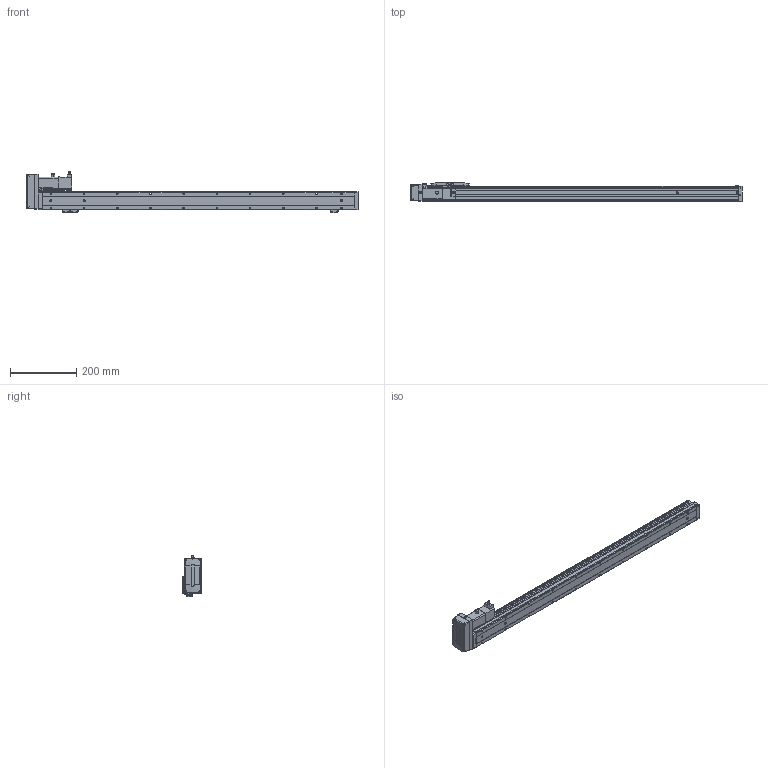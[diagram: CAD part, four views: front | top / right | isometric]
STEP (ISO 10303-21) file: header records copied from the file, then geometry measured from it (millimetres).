
FILE_DESCRIPTION (( 'STEP AP203' ), '1' );
FILE_NAME ('CTH5-L10-S800-BL-C10(¼ò).STEP', '2023-02-04T02:17:54', ( '' ), ( '' ), 'SwSTEP 2.0', 'SolidWorks 2018', '' );
FILE_SCHEMA (( 'CONFIG_CONTROL_DESIGN' ));
Length unit declared in the file: millimetre
Products named in the file (21): 内六角圆柱头螺钉M3-2; PM-Y45; CTH5ヶ耜啣(潠); CTH5菁釱-L940; CTH5-BL-T10_body5; hex nuts, style 1-grades ab gb_GB_FASTENER_NUT_SNAB1 M3-N; M3｡｣; T10-p1; 嫖萇羲壽郪磁1; CTH5賑怢-2; CTH5綴耜啣; 葩璃 蚾饜极13^CTH8-L10-S50-BM-C40(潠)1; CTH5耜蚾蟀諉啣(潠); CTH5覜茼え; CTH100W假蚾啣; CTH5耜蚾欶; CTH5耜晚蹟隊-1; CTH5-L10-S800-BL-C10(潠); 100W萇儂; CTH5耜晚蹟隊; CTH嫖萇羲壽假蚾啣
Assembly tree (35 placements, depth 3):
  CTH5-L10-S800-BL-C10(潠)
    CTH5綴耜啣
    CTH5賑怢-2
    CTH5ヶ耜啣(潠)
    CTH5菁釱-L940
    CTH5耜晚蹟隊  x2
    CTH5覜茼え
    CTH5耜晚蹟隊-1  x3
    CTH5耜蚾蟀諉啣(潠)
    CTH5耜蚾欶
      CTH5-BL-T10_body5
    100W萇儂
      T10-p1
    CTH100W假蚾啣
    葩璃 蚾饜极13^CTH8-L10-S50-BM-C40(潠)1  x2
      CTH嫖萇羲壽假蚾啣
      PM-Y45
      内六角圆柱头螺钉M3-2
      M3｡｣
      hex nuts, style 1-grades ab gb_GB_FASTENER_NUT_SNAB1 M3-N
    嫖萇羲壽郪磁1
      CTH嫖萇羲壽假蚾啣
      PM-Y45
      M3｡｣  x2
      内六角圆柱头螺钉M3-2  x2
      hex nuts, style 1-grades ab gb_GB_FASTENER_NUT_SNAB1 M3-N  x2
Bounding box: 1000 x 60 x 126.31 mm (x, y, z)
Volume: 2385281.3 mm3; surface area: 326227.4 mm2
Topology: 38 solids, 38 shells, 1632 faces, 4111 edges, 2648 vertices
Faces by surface type: plane 881, cylinder 480, cone 215, torus 38, bspline 18
Entity records: 38532 total; most frequent: CARTESIAN_POINT 7165, DIRECTION 6133, ORIENTED_EDGE 5894, EDGE_CURVE 2947, AXIS2_PLACEMENT_3D 2123, VERTEX_POINT 1892, VECTOR 1887, LINE 1887
